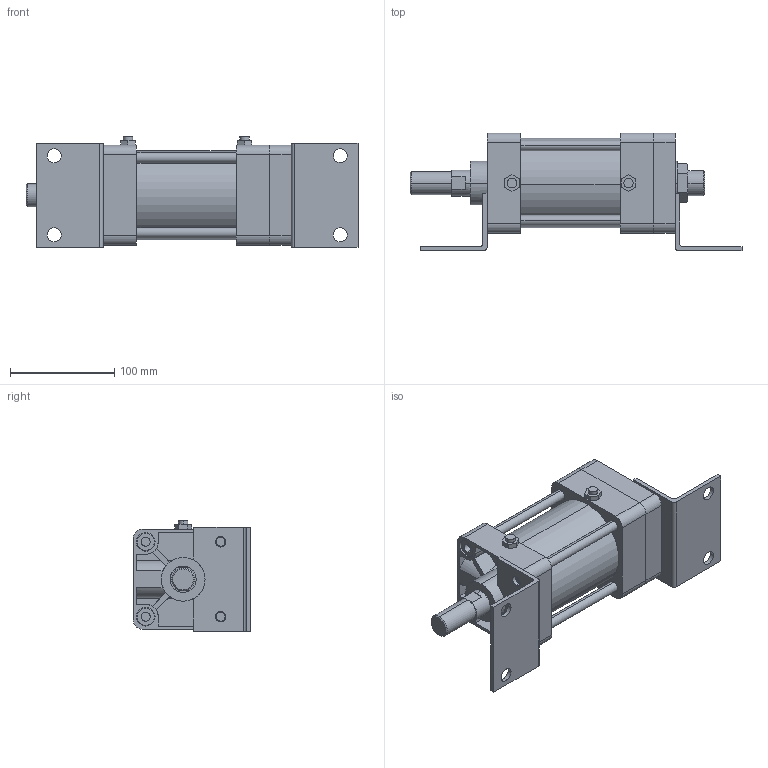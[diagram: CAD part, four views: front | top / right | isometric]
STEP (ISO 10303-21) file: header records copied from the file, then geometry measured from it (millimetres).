
FILE_DESCRIPTION (( 'STEP AP203' ), '1' );
FILE_NAME ('KGA2-80#-50-L.STEP', '2016-04-14T07:44:26', ( '' ), ( '' ), 'SwSTEP 2.0', 'SolidWorks 2014', '' );
FILE_SCHEMA (( 'CONFIG_CONTROL_DESIGN' ));
Length unit declared in the file: millimetre
Products named in the file (8): KGA2-80-After; KG2-80-After; K-80-L; KGA2-80#-50-L; KGLH2-80-50
Assembly tree (18 placements, depth 2):
  KGA2-80#-50-L
    KG2-80-After
    KGLH2-80-50
    (unnamed)
    (unnamed)  x4
    (unnamed)  x8
    K-80-L  x2
    KGA2-80-After
Bounding box: 319 x 113 x 106.3 mm (x, y, z)
Volume: 1344564.2 mm3; surface area: 248792.3 mm2
Topology: 18 solids, 18 shells, 388 faces, 930 edges, 596 vertices
Faces by surface type: plane 166, cylinder 156, torus 38, cone 28
Entity records: 9698 total; most frequent: CARTESIAN_POINT 1715, DIRECTION 1506, ORIENTED_EDGE 1372, EDGE_CURVE 686, AXIS2_PLACEMENT_3D 561, VERTEX_POINT 450, VECTOR 384, LINE 384
